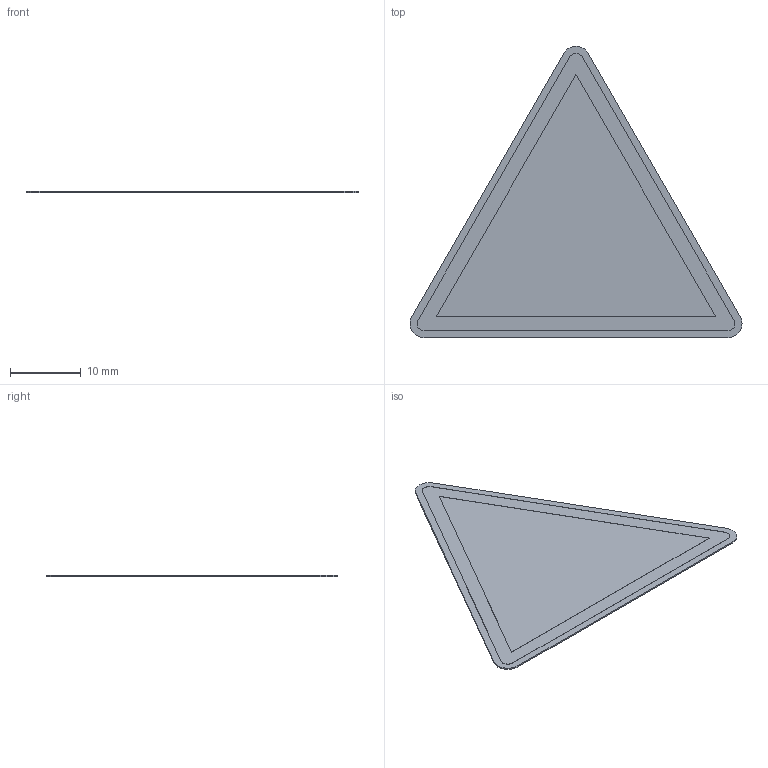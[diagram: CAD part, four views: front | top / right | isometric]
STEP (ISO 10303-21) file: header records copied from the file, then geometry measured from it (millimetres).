
FILE_DESCRIPTION (( 'STEP AP214' ), '1' );
FILE_NAME ('W000_Warnzeichen_Vorlage.STEP', '2022-02-22T08:26:26', ( '' ), ( '' ), 'SwSTEP 2.0', 'SolidWorks 2021', '' );
FILE_SCHEMA (( 'AUTOMOTIVE_DESIGN' ));
Length unit declared in the file: millimetre
Products named in the file (1): W000_Warnzeichen_Vorlage
Bounding box: 47.07 x 41.3 x 0.22 mm (x, y, z)
Volume: 220 mm3; surface area: 2182.1 mm2
Topology: 1 solids, 1 shells, 21 faces, 51 edges, 34 vertices
Faces by surface type: plane 13, cylinder 8
Entity records: 776 total; most frequent: DIRECTION 111, CARTESIAN_POINT 107, ORIENTED_EDGE 102, EDGE_CURVE 51, AXIS2_PLACEMENT_3D 38, VECTOR 35, LINE 35, VERTEX_POINT 34
